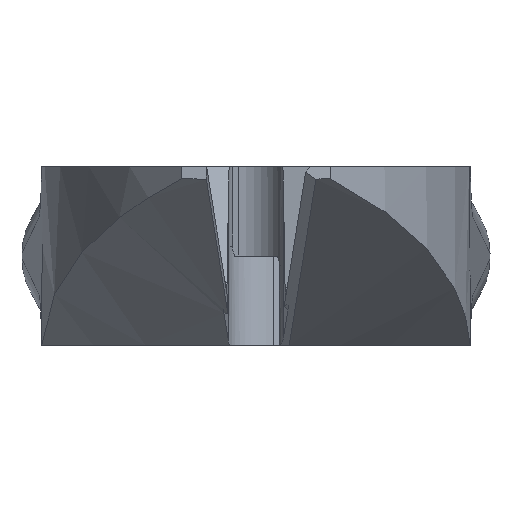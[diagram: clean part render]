
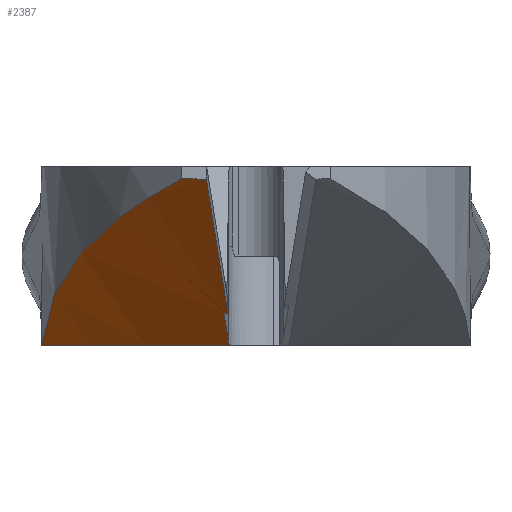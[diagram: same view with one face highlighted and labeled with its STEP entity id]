
A CAD part, left-side view. The second image highlights one B-rep face of the part: STEP entity #2387.
In plain terms, the highlighted cylindrical face has radius 75 mm (diameter 150 mm), a partial arc.
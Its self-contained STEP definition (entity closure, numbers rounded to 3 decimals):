
#37 = LINE ( 'NONE', #1888, #2742 ) ;
#116 = ORIENTED_EDGE ( 'NONE', *, *, #4077, .T. ) ;
#191 = CARTESIAN_POINT ( 'NONE',  ( -15.309, 0.067, 1.622 ) ) ;
#378 = ORIENTED_EDGE ( 'NONE', *, *, #4779, .F. ) ;
#666 = CARTESIAN_POINT ( 'NONE',  ( -19.271, 0.2, 3.91 ) ) ;
#705 = CARTESIAN_POINT ( 'NONE',  ( -27., 0., 8.372 ) ) ;
#715 = CARTESIAN_POINT ( 'NONE',  ( -27., 1.248, 8.384 ) ) ;
#792 = CARTESIAN_POINT ( 'NONE',  ( -16.989, 8.376, 3.132 ) ) ;
#806 = CARTESIAN_POINT ( 'NONE',  ( -12.598, 0.194, 0.057 ) ) ;
#1097 = CARTESIAN_POINT ( 'NONE',  ( -27., 0.832, 8.376 ) ) ;
#1168 = EDGE_CURVE ( 'NONE', #2998, #2067, #4939, .T. ) ;
#1181 = CARTESIAN_POINT ( 'NONE',  ( -21.113, 6.341, 5.279 ) ) ;
#1186 = CYLINDRICAL_SURFACE ( 'NONE', #4675, 75. ) ;
#1268 = ORIENTED_EDGE ( 'NONE', *, *, #3536, .F. ) ;
#1285 = CARTESIAN_POINT ( 'NONE',  ( -12.055, 6.605, 0. ) ) ;
#1344 = VERTEX_POINT ( 'NONE', #2495 ) ;
#1474 = CARTESIAN_POINT ( 'NONE',  ( -11.216, 9.792, 0. ) ) ;
#1569 = CARTESIAN_POINT ( 'NONE',  ( -24.828, 3.553, 7.208 ) ) ;
#1578 = CARTESIAN_POINT ( 'NONE',  ( -15.309, 0., 1.622 ) ) ;
#1791 =( BOUNDED_CURVE ( )  B_SPLINE_CURVE ( 3, ( #2106, #4417, #191, #2874 ),
 .UNSPECIFIED., .F., .T. ) 
 B_SPLINE_CURVE_WITH_KNOTS ( ( 4, 4 ),
 ( 6.281, 6.283 ),
 .UNSPECIFIED. ) 
 CURVE ( )  GEOMETRIC_REPRESENTATION_ITEM ( )  RATIONAL_B_SPLINE_CURVE ( ( 1., 1., 1., 1. ) ) 
 REPRESENTATION_ITEM ( '' )  );
#1868 = CARTESIAN_POINT ( 'NONE',  ( -12.5, 0.182, 0. ) ) ;
#1871 = EDGE_CURVE ( 'NONE', #4169, #2998, #4835, .T. ) ;
#1888 = CARTESIAN_POINT ( 'NONE',  ( -19.271, 0., 3.909 ) ) ;
#1914 = CARTESIAN_POINT ( 'NONE',  ( -12.5, 0.182, 0. ) ) ;
#1920 = CARTESIAN_POINT ( 'NONE',  ( -11.216, 9.792, 0. ) ) ;
#1950 = CARTESIAN_POINT ( 'NONE',  ( -11.216, 9.792, 0. ) ) ;
#1961 = CARTESIAN_POINT ( 'NONE',  ( -27., 1.248, 8.384 ) ) ;
#2067 = VERTEX_POINT ( 'NONE', #3091 ) ;
#2106 = CARTESIAN_POINT ( 'NONE',  ( -15.309, 0.2, 1.622 ) ) ;
#2201 = B_SPLINE_CURVE_WITH_KNOTS ( 'NONE', 3,
 ( #705, #3010, #1097, #3809 ),
 .UNSPECIFIED., .F., .F.,
 ( 4, 4 ),
 ( 0., 1. ),
 .UNSPECIFIED. ) ;
#2213 = FACE_OUTER_BOUND ( 'NONE', #2970, .T. ) ;
#2260 = DIRECTION ( 'NONE',  ( -0.866, 0., 0.5 ) ) ;
#2297 =( BOUNDED_CURVE ( )  B_SPLINE_CURVE ( 3, ( #1868, #2624, #1285, #1474 ),
 .UNSPECIFIED., .F., .T. ) 
 B_SPLINE_CURVE_WITH_KNOTS ( ( 4, 4 ),
 ( 3.144, 3.273 ),
 .UNSPECIFIED. ) 
 CURVE ( )  GEOMETRIC_REPRESENTATION_ITEM ( )  RATIONAL_B_SPLINE_CURVE ( ( 1., 0.999, 0.999, 1. ) ) 
 REPRESENTATION_ITEM ( '' )  );
#2386 = CARTESIAN_POINT ( 'NONE',  ( -12.696, 0.2, 0.114 ) ) ;
#2387 = ADVANCED_FACE ( 'NONE', ( #2213 ), #1186, .T. ) ;
#2495 = CARTESIAN_POINT ( 'NONE',  ( -27., 0., 8.372 ) ) ;
#2531 = ORIENTED_EDGE ( 'NONE', *, *, #1168, .T. ) ;
#2586 = DIRECTION ( 'NONE',  ( 0.866, 0., -0.5 ) ) ;
#2624 = CARTESIAN_POINT ( 'NONE',  ( -12.484, 3.397, 0. ) ) ;
#2742 = VECTOR ( 'NONE', #2260, 1000. ) ;
#2774 = ORIENTED_EDGE ( 'NONE', *, *, #4440, .T. ) ;
#2806 = CARTESIAN_POINT ( 'NONE',  ( -12.795, 0.2, 0.171 ) ) ;
#2874 = CARTESIAN_POINT ( 'NONE',  ( -15.309, 0., 1.622 ) ) ;
#2917 = CARTESIAN_POINT ( 'NONE',  ( 10.402, 0., 73.38 ) ) ;
#2959 = ORIENTED_EDGE ( 'NONE', *, *, #1871, .T. ) ;
#2970 = EDGE_LOOP ( 'NONE', ( #2531, #2774, #3191, #116, #378, #1268, #2959 ) ) ;
#2998 = VERTEX_POINT ( 'NONE', #3656 ) ;
#3010 = CARTESIAN_POINT ( 'NONE',  ( -27., 0.416, 8.372 ) ) ;
#3091 = CARTESIAN_POINT ( 'NONE',  ( -15.309, 0.2, 1.622 ) ) ;
#3094 = CARTESIAN_POINT ( 'NONE',  ( -14.141, 9.28, 1.611 ) ) ;
#3191 = ORIENTED_EDGE ( 'NONE', *, *, #4701, .T. ) ;
#3484 = CARTESIAN_POINT ( 'NONE',  ( -12.69, 9.601, 0.822 ) ) ;
#3501 = CARTESIAN_POINT ( 'NONE',  ( -18.386, 7.793, 3.863 ) ) ;
#3536 = EDGE_CURVE ( 'NONE', #4169, #3771, #2297, .T. ) ;
#3651 = B_SPLINE_CURVE_WITH_KNOTS ( 'NONE', 3,
 ( #1950, #3484, #3094, #792, #3501, #1181, #3901, #1569, #4268, #1961 ),
 .UNSPECIFIED., .F., .F.,
 ( 4, 2, 2, 2, 4 ),
 ( 0., 0.005, 0.01, 0.015, 0.02 ),
 .UNSPECIFIED. ) ;
#3656 = CARTESIAN_POINT ( 'NONE',  ( -12.795, 0.2, 0.171 ) ) ;
#3771 = VERTEX_POINT ( 'NONE', #1920 ) ;
#3809 = CARTESIAN_POINT ( 'NONE',  ( -27., 1.248, 8.384 ) ) ;
#3901 = CARTESIAN_POINT ( 'NONE',  ( -22.406, 5.491, 5.944 ) ) ;
#3930 = VECTOR ( 'NONE', #4171, 1000. ) ;
#4077 = EDGE_CURVE ( 'NONE', #1344, #4687, #2201, .T. ) ;
#4169 = VERTEX_POINT ( 'NONE', #1914 ) ;
#4171 = DIRECTION ( 'NONE',  ( -0.866, 0., 0.5 ) ) ;
#4268 = CARTESIAN_POINT ( 'NONE',  ( -25.96, 2.465, 7.806 ) ) ;
#4329 = VERTEX_POINT ( 'NONE', #1578 ) ;
#4417 = CARTESIAN_POINT ( 'NONE',  ( -15.309, 0.133, 1.622 ) ) ;
#4440 = EDGE_CURVE ( 'NONE', #2067, #4329, #1791, .T. ) ;
#4660 = CARTESIAN_POINT ( 'NONE',  ( -12.5, 0.182, 0. ) ) ;
#4675 = AXIS2_PLACEMENT_3D ( 'NONE', #2917, #2586, #4906 ) ;
#4687 = VERTEX_POINT ( 'NONE', #715 ) ;
#4701 = EDGE_CURVE ( 'NONE', #4329, #1344, #37, .T. ) ;
#4779 = EDGE_CURVE ( 'NONE', #3771, #4687, #3651, .T. ) ;
#4835 = B_SPLINE_CURVE_WITH_KNOTS ( 'NONE', 3,
 ( #4660, #806, #2386, #2806 ),
 .UNSPECIFIED., .F., .F.,
 ( 4, 4 ),
 ( 0., 0. ),
 .UNSPECIFIED. ) ;
#4906 = DIRECTION ( 'NONE',  ( -0.5, 0., -0.866 ) ) ;
#4939 = LINE ( 'NONE', #666, #3930 ) ;
